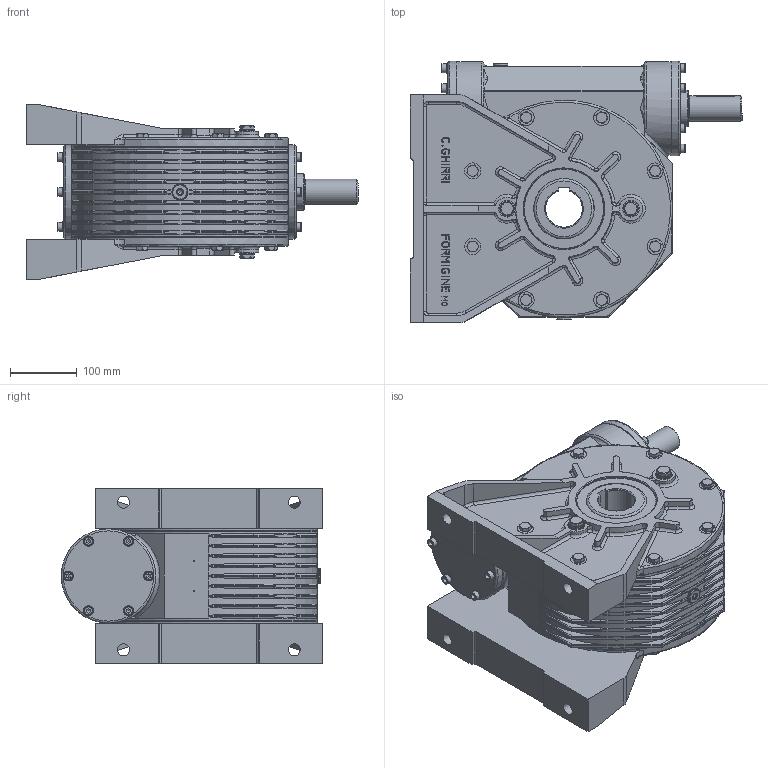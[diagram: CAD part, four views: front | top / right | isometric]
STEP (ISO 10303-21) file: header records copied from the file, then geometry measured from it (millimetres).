
FILE_DESCRIPTION((''),'2;1');
FILE_NAME('Y:\Archivi Inventor\Prog_01\GRAND_70\complessivi\Figurini\mrv70 sito\RV70\RV----70---P3---------------3D.stp','2013-03-28T08:19:05',('tech3'),(''),'Autodesk Inventor 2013','Autodesk Inventor 2013','');
FILE_SCHEMA(('AUTOMOTIVE_DESIGN { 1 0 10303 214 1 1 1 1 }'));
Length unit declared in the file: millimetre
Products named in the file (19): RV----70---P3---------------3D; MRV70 figurino; 0107001-A0 figurino; 0107008.A0 figurino; 0107010.A0 figurino; 0107029; 0107009; 0107028; DIN 3760 AS AS - 90 x 120 x 12 - NBR; UNI 8839 A 8; Guarnizione 3_8 GAS; Tappo 3_8 GAS_esagn_incsst; DIN EN ISO 4762 M8 x 20; DIN EN 24017 M10 x 20; Tappo3_8 GAS; 0107012; DIN EN ISO 4762 M8 x 16; 0107011.A0 figurino; 55_70_8
Assembly tree (61 placements, depth 3):
  RV----70---P3---------------3D
    MRV70 figurino
      0107001-A0 figurino
      0107008.A0 figurino
      0107010.A0 figurino  x2
      0107029  x2
      0107009
      0107028  x2
      DIN 3760 AS AS - 90 x 120 x 12 - NBR  x2
      UNI 8839 A 8  x6
      Guarnizione 3_8 GAS  x6
      Tappo 3_8 GAS_esagn_incsst  x2
      DIN EN ISO 4762 M8 x 20  x6
      DIN EN 24017 M10 x 20  x16
      Tappo3_8 GAS  x4
    0107012
    DIN EN ISO 4762 M8 x 16  x6
    0107011.A0 figurino
    55_70_8
Bounding box: 496 x 390.5 x 260.8 mm (x, y, z)
Volume: 17161143.5 mm3; surface area: 1563192.6 mm2
Topology: 61 solids, 62 shells, 2471 faces, 6043 edges, 3736 vertices
Faces by surface type: plane 908, bspline 588, cylinder 561, cone 231, torus 179, sphere 4
Full cylindrical faces by diameter (mm): 2 x2, 6.647 x12, 8 x14, 8.376 x16, 8.5 x25, 10 x16, 10.5 x17, 11 x16, 13 x12, 13.046 x4, 14.63 x16, 14.95 x6, 16.3 x6, 16.5 x2, 18 x4, 22 x12, 24 x18, 25 x4, 37.4 x1, 38 x1, 55 x1, 61 x1, 66.4 x1, 69 x1, 70 x2, 75 x1, 90 x4, 97.2 x2, 100 x6, 114 x2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
Entity records: 47852 total; most frequent: CARTESIAN_POINT 17590, ORIENTED_EDGE 6008, DIRECTION 5493, EDGE_CURVE 3004, AXIS2_PLACEMENT_3D 2182, VERTEX_POINT 1994, EDGE_LOOP 1750, FACE_OUTER_BOUND 1351
